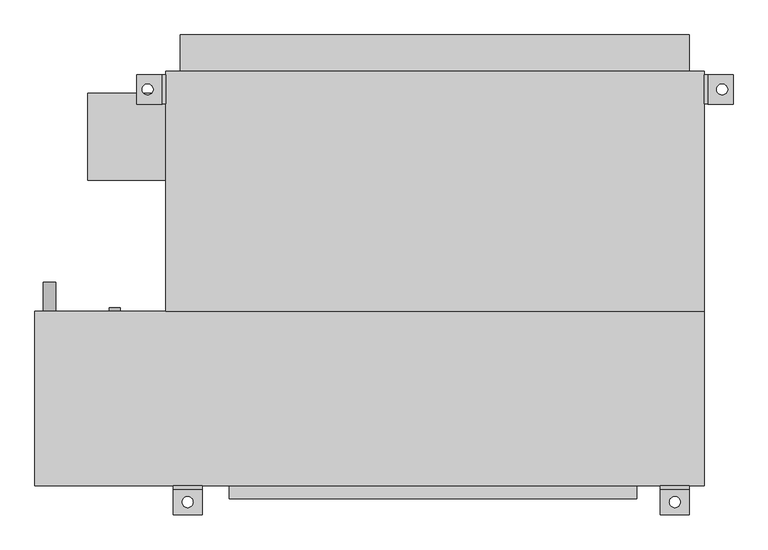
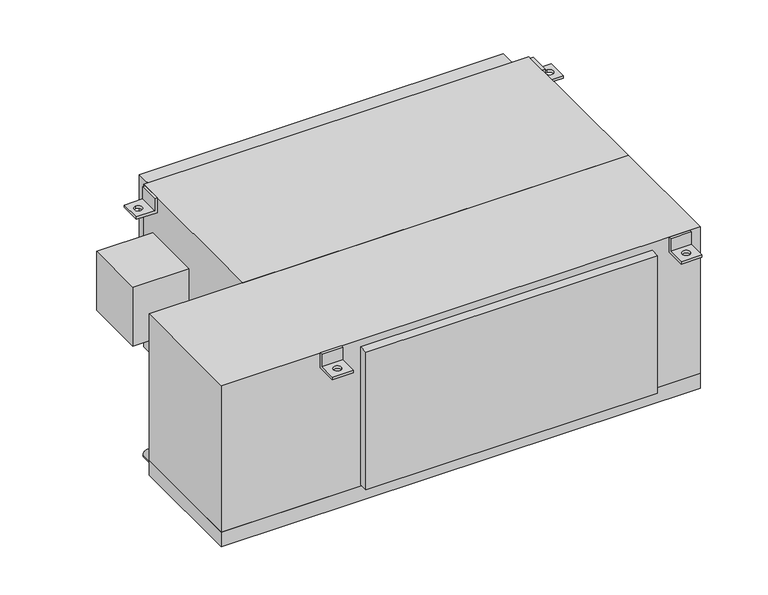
"""IFC4 building model written with IfcOpenShell, lengths in millimetres: proxy geometry, Concealed_High_Capacity_Horizontal_Fan_Coil_Unit_With_Plenum_-_42DCA_-_CARRIER_-_2-Pipe_Cool-EHeat_ValveEnclosure_LH_2022 : Size 12 - 277v/60Hz/1Ph - 6 Row 9.0kW."""

from ifc_helpers import new_model, si_unit, point, frame, frame_2d, origin, place, context, project, spatial, polyline, circle_curve, trimmed, segment, composite_curve, outline, extrude, source, transform, mapped, element, save
from ifc_brep_helpers import plane_surface, revolved_surface, advanced_brep


def mechanical_equipment_3d5ca929(model_context):
    return source(origin(), model_context, "Body", "SolidModel", [
        advanced_brep(
        [(596.9, -390.525, 0.0), (596.9, -396.875, 0.0), (596.9, -396.875, -31.75), (596.9, -441.325, -31.75), (596.9, -441.325, -38.1), (596.9, -390.525, -38.1), (546.1, -390.525, 0.0), (546.1, -390.525, -38.1), (546.1, -441.325, -38.1), (546.1, -441.325, -31.75), (546.1, -396.875, -31.75), (546.1, -396.875, 0.0), (561.975, -419.1, -31.75), (581.025, -419.1, -31.75), (581.025, -419.1, -38.1), (561.975, -419.1, -38.1)],
        [
            (0, 1),
            (1, 2),
            (2, 3),
            (3, 4),
            (4, 5),
            (5, 0),
            (6, 7),
            (7, 8),
            (8, 9),
            (9, 10),
            (10, 11),
            (11, 6),
            (0, 6),
            (11, 1),
            (10, 2),
            (9, 3),
            (12, 13, circle_curve(frame((571.5, -419.1, -31.75), z_axis=(0.0, 0.0, -1.0), x_axis=(1.0, 0.0, 0.0)), 9.525)),
            (13, 12, circle_curve(frame((571.5, -419.1, -31.75), z_axis=(0.0, 0.0, -1.0), x_axis=(1.0, 0.0, 0.0)), 9.525)),
            (8, 4),
            (7, 5),
            (14, 15, circle_curve(frame((571.5, -419.1, -38.1), z_axis=(0.0, 0.0, 1.0), x_axis=(1.0, 0.0, 0.0)), 9.525)),
            (15, 14, circle_curve(frame((571.5, -419.1, -38.1), z_axis=(0.0, 0.0, 1.0), x_axis=(1.0, 0.0, 0.0)), 9.525)),
            (12, 15),
            (14, 13),
        ],
        [
            plane_surface(frame((596.9, -396.875, 0.0), z_axis=(1.0, 0.0, 0.0), x_axis=(0.0, -1.0, 0.0))),
            plane_surface(frame((546.1, -396.875, 0.0), z_axis=(-1.0, 0.0, 0.0), x_axis=(0.0, 1.0, 0.0))),
            plane_surface(frame((596.9, -390.525, 0.0), z_axis=(0.0, 0.0, 1.0), x_axis=(-1.0, 0.0, 0.0))),
            plane_surface(frame((596.9, -396.875, 0.0), z_axis=(0.0, -1.0, 0.0), x_axis=(-1.0, 0.0, 0.0))),
            plane_surface(frame((596.9, -396.875, -31.75), z_axis=(0.0, 0.0, 1.0), x_axis=(-1.0, 0.0, 0.0))),
            plane_surface(frame((596.9, -441.325, -31.75), z_axis=(0.0, -1.0, 0.0), x_axis=(-1.0, 0.0, 0.0))),
            plane_surface(frame((596.9, -441.325, -38.1), z_axis=(0.0, 0.0, -1.0), x_axis=(-1.0, 0.0, 0.0))),
            plane_surface(frame((596.9, -390.525, -38.1), z_axis=(0.0, 1.0, 0.0), x_axis=(-1.0, 0.0, 0.0))),
            revolved_surface(polyline([(581.025, -419.1, -38.1), (581.025, -419.1, -31.75)]), (571.5, -419.1, -31.75), (0.0, 0.0, -1.0)),
        ],
        [
            (0, [[1, 2, 3, 4, 5, 6]]),
            (1, [[7, 8, 9, 10, 11, 12]]),
            (2, [[-1, 13, -12, 14]]),
            (3, [[-2, -14, -11, 15]]),
            (4, [[-3, -15, -10, 16], [17, 18]]),
            (5, [[-4, -16, -9, 19]]),
            (6, [[-5, -19, -8, 20], [21, 22]]),
            (7, [[-6, -20, -7, -13]]),
            (8, [[23, -21, 24, -17]]),
            (8, [[-23, -18, -24, -22]]),
        ],
    ),
        advanced_brep(
        [(-254.0, -390.525, -38.1), (-254.0, -390.525, 0.0), (-254.0, -396.875, 0.0), (-254.0, -396.875, -31.75), (-254.0, -441.325, -31.75), (-254.0, -441.325, -38.1), (-304.8, -390.525, -38.1), (-304.8, -441.325, -38.1), (-304.8, -441.325, -31.75), (-304.8, -396.875, -31.75), (-304.8, -396.875, 0.0), (-304.8, -390.525, 0.0), (-288.925, -419.1, -31.75), (-269.875, -419.1, -31.75), (-269.875, -419.1, -38.1), (-288.925, -419.1, -38.1)],
        [
            (0, 1),
            (1, 2),
            (2, 3),
            (3, 4),
            (4, 5),
            (5, 0),
            (6, 7),
            (7, 8),
            (8, 9),
            (9, 10),
            (10, 11),
            (11, 6),
            (0, 6),
            (11, 1),
            (10, 2),
            (9, 3),
            (8, 4),
            (12, 13, circle_curve(frame((-279.4, -419.1, -31.75), z_axis=(0.0, 0.0, -1.0), x_axis=(1.0, 0.0, 0.0)), 9.525)),
            (13, 12, circle_curve(frame((-279.4, -419.1, -31.75), z_axis=(0.0, 0.0, -1.0), x_axis=(1.0, 0.0, 0.0)), 9.525)),
            (7, 5),
            (14, 15, circle_curve(frame((-279.4, -419.1, -38.1), z_axis=(0.0, 0.0, 1.0), x_axis=(1.0, 0.0, 0.0)), 9.525)),
            (15, 14, circle_curve(frame((-279.4, -419.1, -38.1), z_axis=(0.0, 0.0, 1.0), x_axis=(1.0, 0.0, 0.0)), 9.525)),
            (12, 15),
            (14, 13),
        ],
        [
            plane_surface(frame((-254.0, -390.525, -38.1), z_axis=(1.0, 0.0, 0.0), x_axis=(0.0, 0.0, 1.0))),
            plane_surface(frame((-304.8, -390.525, -38.1), z_axis=(-1.0, 0.0, 0.0), x_axis=(0.0, 0.0, -1.0))),
            plane_surface(frame((-254.0, -390.525, -38.1), z_axis=(0.0, 1.0, 0.0), x_axis=(-1.0, 0.0, 0.0))),
            plane_surface(frame((-254.0, -390.525, 0.0), z_axis=(0.0, 0.0, 1.0), x_axis=(-1.0, 0.0, 0.0))),
            plane_surface(frame((-254.0, -396.875, 0.0), z_axis=(0.0, -1.0, 0.0), x_axis=(-1.0, 0.0, 0.0))),
            plane_surface(frame((-254.0, -396.875, -31.75), z_axis=(0.0, 0.0, 1.0), x_axis=(-1.0, 0.0, 0.0))),
            plane_surface(frame((-254.0, -441.325, -31.75), z_axis=(0.0, -1.0, 0.0), x_axis=(-1.0, 0.0, 0.0))),
            plane_surface(frame((-254.0, -441.325, -38.1), z_axis=(0.0, 0.0, -1.0), x_axis=(-1.0, 0.0, 0.0))),
            revolved_surface(polyline([(-269.875, -419.1, -38.1), (-269.875, -419.1, -31.75)]), (-279.4, -419.1, -31.75), (0.0, 0.0, -1.0)),
        ],
        [
            (0, [[1, 2, 3, 4, 5, 6]]),
            (1, [[7, 8, 9, 10, 11, 12]]),
            (2, [[-1, 13, -12, 14]]),
            (3, [[-2, -14, -11, 15]]),
            (4, [[-3, -15, -10, 16]]),
            (5, [[-4, -16, -9, 17], [18, 19]]),
            (6, [[-5, -17, -8, 20]]),
            (7, [[-6, -20, -7, -13], [21, 22]]),
            (8, [[23, -21, 24, -18]]),
            (8, [[-23, -19, -24, -22]]),
        ],
    ),
        extrude(outline(composite_curve([segment(trimmed(circle_curve(frame_2d((-400.05, -520.7)), 11.1125), [point((-400.05, -531.8125))], [point((-400.05, -509.5875))], False, "CARTESIAN"), True, "CONTINUOUS"), segment(trimmed(circle_curve(frame_2d((-400.05, -520.7)), 11.1125), [point((-400.05, -509.5875))], [point((-400.05, -531.8125))], False, "CARTESIAN"), True, "CONTINUOUS")], self_intersect=False)), frame((0.0, -85.725, 0.0), z_axis=(0.0, 1.0, 0.0), x_axis=(0.0, 0.0, 1.0)), (0.0, 0.0, 1.0), 50.8),
        extrude(outline(composite_curve([segment(trimmed(circle_curve(frame_2d((-44.45, -406.4)), 9.525), [point((-44.45, -415.925))], [point((-44.45, -396.875))], False, "CARTESIAN"), True, "CONTINUOUS"), segment(trimmed(circle_curve(frame_2d((-44.45, -406.4)), 9.525), [point((-44.45, -396.875))], [point((-44.45, -415.925))], False, "CARTESIAN"), True, "CONTINUOUS")], self_intersect=False)), frame((0.0, -85.725, 0.0), z_axis=(0.0, 1.0, 0.0), x_axis=(0.0, 0.0, 1.0)), (0.0, 0.0, 1.0), 6.35),
        extrude(outline(composite_curve([segment(trimmed(circle_curve(frame_2d((-276.225, -406.4)), 9.525), [point((-276.225, -415.925))], [point((-276.225, -396.875))], False, "CARTESIAN"), True, "CONTINUOUS"), segment(trimmed(circle_curve(frame_2d((-276.225, -406.4)), 9.525), [point((-276.225, -396.875))], [point((-276.225, -415.925))], False, "CARTESIAN"), True, "CONTINUOUS")], self_intersect=False)), frame((0.0, -85.725, 0.0), z_axis=(0.0, 1.0, 0.0), x_axis=(0.0, 0.0, 1.0)), (0.0, 0.0, 1.0), 6.35),
        advanced_brep(
        [(-317.5, 327.025, -38.1), (-368.3, 327.025, -38.1), (-368.3, 327.025, -31.75), (-323.85, 327.025, -31.75), (-323.85, 327.025, 0.0), (-317.5, 327.025, 0.0), (-317.5, 276.225, -38.1), (-317.5, 276.225, 0.0), (-323.85, 276.225, 0.0), (-323.85, 276.225, -31.75), (-368.3, 276.225, -31.75), (-368.3, 276.225, -38.1), (-349.25, 292.1, -38.1), (-349.25, 311.15, -38.1), (-349.25, 311.15, -31.75), (-349.25, 292.1, -31.75)],
        [
            (0, 1),
            (1, 2),
            (2, 3),
            (3, 4),
            (4, 5),
            (5, 0),
            (6, 7),
            (7, 8),
            (8, 9),
            (9, 10),
            (10, 11),
            (11, 6),
            (0, 6),
            (11, 1),
            (12, 13, circle_curve(frame((-349.25, 301.625, -38.1), z_axis=(0.0, 0.0, 1.0), x_axis=(0.0, -1.0, 0.0)), 9.525)),
            (13, 12, circle_curve(frame((-349.25, 301.625, -38.1), z_axis=(0.0, 0.0, 1.0), x_axis=(0.0, -1.0, 0.0)), 9.525)),
            (10, 2),
            (9, 3),
            (14, 15, circle_curve(frame((-349.25, 301.625, -31.75), z_axis=(0.0, 0.0, -1.0), x_axis=(0.0, -1.0, 0.0)), 9.525)),
            (15, 14, circle_curve(frame((-349.25, 301.625, -31.75), z_axis=(0.0, 0.0, -1.0), x_axis=(0.0, -1.0, 0.0)), 9.525)),
            (8, 4),
            (7, 5),
            (14, 13),
            (12, 15),
        ],
        [
            plane_surface(frame((-317.5, 327.025, -38.1), z_axis=(0.0, 1.0, 0.0), x_axis=(-1.0, 0.0, 0.0))),
            plane_surface(frame((-317.5, 276.225, -38.1), z_axis=(0.0, -1.0, 0.0), x_axis=(1.0, 0.0, 0.0))),
            plane_surface(frame((-317.5, 327.025, -38.1), z_axis=(0.0, 0.0, -1.0), x_axis=(0.0, -1.0, 0.0))),
            plane_surface(frame((-368.3, 327.025, -38.1), z_axis=(-1.0, 0.0, 0.0), x_axis=(0.0, -1.0, 0.0))),
            plane_surface(frame((-368.3, 327.025, -31.75), z_axis=(0.0, 0.0, 1.0), x_axis=(0.0, -1.0, 0.0))),
            plane_surface(frame((-323.85, 327.025, -31.75), z_axis=(-1.0, 0.0, 0.0), x_axis=(0.0, -1.0, 0.0))),
            plane_surface(frame((-323.85, 327.025, 0.0), z_axis=(0.0, 0.0, 1.0), x_axis=(0.0, -1.0, 0.0))),
            plane_surface(frame((-317.5, 327.025, 0.0), z_axis=(1.0, 0.0, 0.0), x_axis=(0.0, -1.0, 0.0))),
            revolved_surface(polyline([(-349.25, 292.1, -38.1), (-349.25, 292.1, -31.75)]), (-349.25, 301.625, -31.75), (0.0, 0.0, -1.0)),
        ],
        [
            (0, [[1, 2, 3, 4, 5, 6]]),
            (1, [[7, 8, 9, 10, 11, 12]]),
            (2, [[-1, 13, -12, 14], [15, 16]]),
            (3, [[-2, -14, -11, 17]]),
            (4, [[-3, -17, -10, 18], [19, 20]]),
            (5, [[-4, -18, -9, 21]]),
            (6, [[-5, -21, -8, 22]]),
            (7, [[-6, -22, -7, -13]]),
            (8, [[23, -15, 24, -19]]),
            (8, [[-23, -20, -24, -16]]),
        ],
    ),
        advanced_brep(
        [(622.3, 327.025, -38.1), (622.3, 327.025, 0.0), (628.65, 327.025, 0.0), (628.65, 327.025, -31.75), (673.1, 327.025, -31.75), (673.1, 327.025, -38.1), (622.3, 276.225, -38.1), (673.1, 276.225, -38.1), (673.1, 276.225, -31.75), (628.65, 276.225, -31.75), (628.65, 276.225, 0.0), (622.3, 276.225, 0.0), (654.05, 311.15, -31.75), (654.05, 292.1, -31.75), (654.05, 292.1, -38.1), (654.05, 311.15, -38.1)],
        [
            (0, 1),
            (1, 2),
            (2, 3),
            (3, 4),
            (4, 5),
            (5, 0),
            (6, 7),
            (7, 8),
            (8, 9),
            (9, 10),
            (10, 11),
            (11, 6),
            (0, 6),
            (11, 1),
            (10, 2),
            (9, 3),
            (8, 4),
            (12, 13, circle_curve(frame((654.05, 301.625, -31.75), z_axis=(0.0, 0.0, -1.0), x_axis=(0.0, -1.0, 0.0)), 9.525)),
            (13, 12, circle_curve(frame((654.05, 301.625, -31.75), z_axis=(0.0, 0.0, -1.0), x_axis=(0.0, -1.0, 0.0)), 9.525)),
            (7, 5),
            (14, 15, circle_curve(frame((654.05, 301.625, -38.1), z_axis=(0.0, 0.0, 1.0), x_axis=(0.0, -1.0, 0.0)), 9.525)),
            (15, 14, circle_curve(frame((654.05, 301.625, -38.1), z_axis=(0.0, 0.0, 1.0), x_axis=(0.0, -1.0, 0.0)), 9.525)),
            (12, 15),
            (14, 13),
        ],
        [
            plane_surface(frame((-317.5, 327.025, -38.1), z_axis=(0.0, 1.0, 0.0), x_axis=(-1.0, 0.0, 0.0))),
            plane_surface(frame((-317.5, 276.225, -38.1), z_axis=(0.0, -1.0, 0.0), x_axis=(1.0, 0.0, 0.0))),
            plane_surface(frame((622.3, 327.025, -38.1), z_axis=(-1.0, 0.0, 0.0), x_axis=(0.0, -1.0, 0.0))),
            plane_surface(frame((622.3, 327.025, 0.0), z_axis=(0.0, 0.0, 1.0), x_axis=(0.0, -1.0, 0.0))),
            plane_surface(frame((628.65, 327.025, 0.0), z_axis=(1.0, 0.0, 0.0), x_axis=(0.0, -1.0, 0.0))),
            plane_surface(frame((628.65, 327.025, -31.75), z_axis=(0.0, 0.0, 1.0), x_axis=(0.0, -1.0, 0.0))),
            plane_surface(frame((673.1, 327.025, -31.75), z_axis=(1.0, 0.0, 0.0), x_axis=(0.0, -1.0, 0.0))),
            plane_surface(frame((673.1, 327.025, -38.1), z_axis=(0.0, 0.0, -1.0), x_axis=(0.0, -1.0, 0.0))),
            revolved_surface(polyline([(654.05, 292.1, -38.1), (654.05, 292.1, -31.75)]), (654.05, 301.625, -31.75), (0.0, 0.0, -1.0)),
        ],
        [
            (0, [[1, 2, 3, 4, 5, 6]]),
            (1, [[7, 8, 9, 10, 11, 12]]),
            (2, [[-1, 13, -12, 14]]),
            (3, [[-2, -14, -11, 15]]),
            (4, [[-3, -15, -10, 16]]),
            (5, [[-4, -16, -9, 17], [18, 19]]),
            (6, [[-5, -17, -8, 20]]),
            (7, [[-6, -20, -7, -13], [21, 22]]),
            (8, [[23, -21, 24, -18]]),
            (8, [[-23, -19, -24, -22]]),
        ],
    ),
        extrude(outline(polyline([(-292.1, 396.875), (596.9, 396.875), (596.9, 333.375), (-292.1, 333.375), (-292.1, 396.875)])), frame((0.0, 0.0, -377.825), z_axis=(0.0, 0.0, 1.0), x_axis=(1.0, 0.0, 0.0)), (0.0, 0.0, 1.0), 355.6),
        extrude(outline(polyline([(-454.025, 142.875), (-454.025, 295.275), (-317.5, 295.275), (-317.5, 142.875), (-454.025, 142.875)])), frame((0.0, 0.0, -254.0), z_axis=(0.0, 0.0, 1.0), x_axis=(1.0, 0.0, 0.0)), (0.0, 0.0, 1.0), 152.4),
        extrude(outline(polyline([(504.825, -412.75), (-206.375, -412.75), (-206.375, -390.525), (504.825, -390.525), (504.825, -412.75)])), frame((0.0, 0.0, -374.65), z_axis=(0.0, 0.0, 1.0), x_axis=(1.0, 0.0, 0.0)), (0.0, 0.0, 1.0), 355.6),
        extrude(outline(polyline([(622.3, -85.725), (-317.5, -85.725), (-317.5, 333.375), (622.3, 333.375), (622.3, -85.725)])), frame((0.0, 0.0, -419.1), z_axis=(0.0, 0.0, 1.0), x_axis=(1.0, 0.0, 0.0)), (0.0, 0.0, 1.0), 419.1),
        extrude(outline(polyline([(622.3, -85.725), (622.3, -390.525), (-546.1, -390.525), (-546.1, -85.725), (622.3, -85.725)])), frame((0.0, 0.0, -377.825), z_axis=(0.0, 0.0, 1.0), x_axis=(1.0, 0.0, 0.0)), (0.0, 0.0, 1.0), 377.825),
        extrude(outline(polyline([(622.3, -85.725), (622.3, -390.525), (-546.1, -390.525), (-546.1, -85.725), (622.3, -85.725)])), frame((0.0, 0.0, -415.925), z_axis=(0.0, 0.0, 1.0), x_axis=(1.0, 0.0, 0.0)), (0.0, 0.0, 1.0), 38.1),
    ])


if __name__ == "__main__":
    model = new_model("IFC4")
    model_context = context("Model", 3, world=origin())
    ifc_project = project(units=[si_unit("LENGTHUNIT", "METRE", prefix="MILLI")], contexts=[model_context])
    site = spatial("IfcSite", under=ifc_project)
    building = spatial("IfcBuilding", under=site)
    placement = place(None, origin())
    mechanical_equipment_shape = mechanical_equipment_3d5ca929(model_context)
    element("IfcBuildingElementProxy", 1, Name="Concealed_High_Capacity_Horizontal_Fan_Coil_Unit_With_Plenum_-_42DCA_-_CARRIER_-_2-Pipe_Cool-EHeat_ValveEnclosure_LH_2022 : Size 12 - 277v/60Hz/1Ph - 6 Row 9.0kW", ObjectType="Concealed_High_Capacity_Horizontal_Fan_Coil_Unit_With_Plenum_-_42DCA_-_CARRIER_-_2-Pipe_Cool-EHeat_ValveEnclosure_LH_2022 : Size 12 - 277v/60Hz/1Ph - 6 Row 9.0kW", at=placement, inside=building, context=model_context, shape_type="MappedRepresentation", body=[
        mapped(mechanical_equipment_shape, transform((0.0, 0.0, 0.0), x_axis=(1.0, 0.0, 0.0), y_axis=(0.0, 1.0, 0.0), z_axis=(0.0, 0.0, 1.0))),
    ])
    save(model, "model.ifc")
